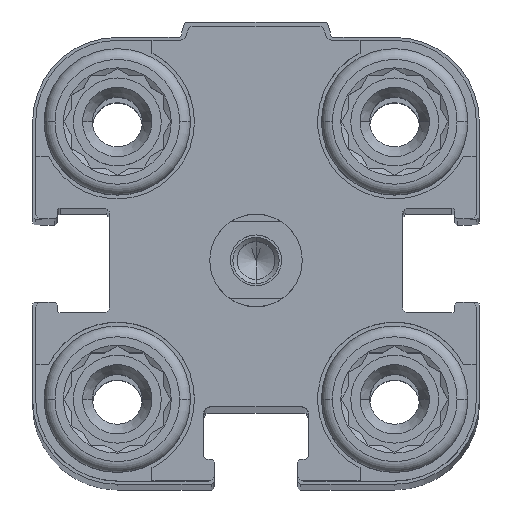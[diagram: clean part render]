
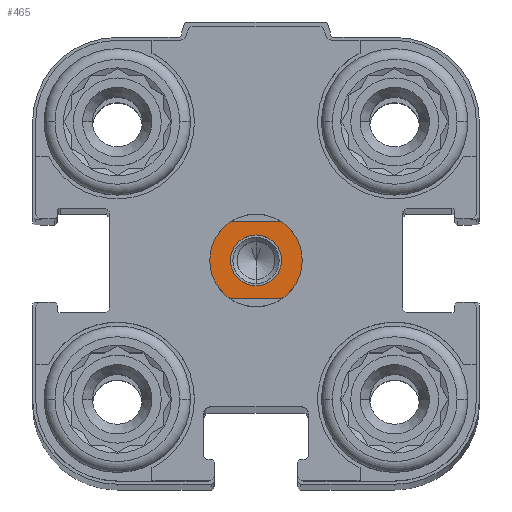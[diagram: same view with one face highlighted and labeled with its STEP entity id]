
A CAD part, top view. The second image highlights one B-rep face of the part: STEP entity #465.
In plain terms, the highlighted planar face has unit normal (0, 0, 1).
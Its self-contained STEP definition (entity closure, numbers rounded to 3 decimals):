
#465 = ADVANCED_FACE ( 'NONE', ( #7589, #7510 ), #5895, .F. ) ;
#646 = CARTESIAN_POINT ( 'NONE',  ( 1.658, 2.5, 4.5 ) ) ;
#752 = CIRCLE ( 'NONE', #5339, 3. ) ;
#886 = VERTEX_POINT ( 'NONE', #3805 ) ;
#1290 = CARTESIAN_POINT ( 'NONE',  ( 0., 0., 4.5 ) ) ;
#1443 = CIRCLE ( 'NONE', #9461, 3. ) ;
#1670 = AXIS2_PLACEMENT_3D ( 'NONE', #15509, #14074, #6065 ) ;
#1988 = ORIENTED_EDGE ( 'NONE', *, *, #15086, .F. ) ;
#2314 = EDGE_CURVE ( 'NONE', #3663, #9179, #8144, .T. ) ;
#2729 = DIRECTION ( 'NONE',  ( 0., 1., 0. ) ) ;
#2858 = VERTEX_POINT ( 'NONE', #15460 ) ;
#3494 = DIRECTION ( 'NONE',  ( 0., 0., -1. ) ) ;
#3663 = VERTEX_POINT ( 'NONE', #13912 ) ;
#3795 = ORIENTED_EDGE ( 'NONE', *, *, #17385, .F. ) ;
#3805 = CARTESIAN_POINT ( 'NONE',  ( -3., 0., 4.5 ) ) ;
#4155 = EDGE_LOOP ( 'NONE', ( #14981, #17383 ) ) ;
#4984 = DIRECTION ( 'NONE',  ( -1., 0., 0. ) ) ;
#5274 = DIRECTION ( 'NONE',  ( -1., 0., 0. ) ) ;
#5339 = AXIS2_PLACEMENT_3D ( 'NONE', #14627, #8163, #5274 ) ;
#5676 = DIRECTION ( 'NONE',  ( -1., 0., 0. ) ) ;
#5895 = PLANE ( 'NONE',  #13712 ) ;
#6065 = DIRECTION ( 'NONE',  ( -1., 0., 0. ) ) ;
#6239 = VECTOR ( 'NONE', #14199, 1000. ) ;
#6475 = AXIS2_PLACEMENT_3D ( 'NONE', #14971, #10726, #4984 ) ;
#6750 = CIRCLE ( 'NONE', #16796, 1.65 ) ;
#7008 = CARTESIAN_POINT ( 'NONE',  ( 5., -2.5, 4.5 ) ) ;
#7429 = DIRECTION ( 'NONE',  ( 0., 1., 0. ) ) ;
#7458 = ORIENTED_EDGE ( 'NONE', *, *, #15832, .F. ) ;
#7510 = FACE_BOUND ( 'NONE', #4155, .T. ) ;
#7564 = CARTESIAN_POINT ( 'NONE',  ( -1.658, -2.5, 4.5 ) ) ;
#7589 = FACE_OUTER_BOUND ( 'NONE', #10048, .T. ) ;
#7928 = VERTEX_POINT ( 'NONE', #15657 ) ;
#8144 = CIRCLE ( 'NONE', #16153, 1.65 ) ;
#8163 = DIRECTION ( 'NONE',  ( 0., 0., -1. ) ) ;
#8830 = EDGE_CURVE ( 'NONE', #15793, #7928, #1443, .T. ) ;
#9130 = VECTOR ( 'NONE', #5676, 1000. ) ;
#9179 = VERTEX_POINT ( 'NONE', #16188 ) ;
#9461 = AXIS2_PLACEMENT_3D ( 'NONE', #12076, #10632, #13437 ) ;
#10048 = EDGE_LOOP ( 'NONE', ( #7458, #14813, #12173, #3795, #1988, #10424 ) ) ;
#10144 = CARTESIAN_POINT ( 'NONE',  ( 0., 0., 4.5 ) ) ;
#10424 = ORIENTED_EDGE ( 'NONE', *, *, #8830, .F. ) ;
#10632 = DIRECTION ( 'NONE',  ( 0., 0., -1. ) ) ;
#10726 = DIRECTION ( 'NONE',  ( 0., 0., -1. ) ) ;
#10906 = DIRECTION ( 'NONE',  ( 0., 0., -1. ) ) ;
#11421 = CARTESIAN_POINT ( 'NONE',  ( -5., 2.5, 4.5 ) ) ;
#11668 = EDGE_CURVE ( 'NONE', #886, #12722, #11929, .T. ) ;
#11683 = LINE ( 'NONE', #11421, #6239 ) ;
#11833 = DIRECTION ( 'NONE',  ( 0., 1., 0. ) ) ;
#11929 = CIRCLE ( 'NONE', #6475, 3. ) ;
#12076 = CARTESIAN_POINT ( 'NONE',  ( 0., 0., 4.5 ) ) ;
#12173 = ORIENTED_EDGE ( 'NONE', *, *, #16697, .F. ) ;
#12337 = EDGE_CURVE ( 'NONE', #9179, #3663, #6750, .T. ) ;
#12722 = VERTEX_POINT ( 'NONE', #14511 ) ;
#13422 = CIRCLE ( 'NONE', #1670, 3. ) ;
#13437 = DIRECTION ( 'NONE',  ( -1., 0., 0. ) ) ;
#13712 = AXIS2_PLACEMENT_3D ( 'NONE', #15514, #14254, #7429 ) ;
#13912 = CARTESIAN_POINT ( 'NONE',  ( 0., 1.65, 4.5 ) ) ;
#14074 = DIRECTION ( 'NONE',  ( 0., 0., -1. ) ) ;
#14199 = DIRECTION ( 'NONE',  ( 1., 0., 0. ) ) ;
#14254 = DIRECTION ( 'NONE',  ( 0., 0., -1. ) ) ;
#14511 = CARTESIAN_POINT ( 'NONE',  ( -1.658, 2.5, 4.5 ) ) ;
#14627 = CARTESIAN_POINT ( 'NONE',  ( 0., 0., 4.5 ) ) ;
#14813 = ORIENTED_EDGE ( 'NONE', *, *, #11668, .F. ) ;
#14971 = CARTESIAN_POINT ( 'NONE',  ( 0., 0., 4.5 ) ) ;
#14981 = ORIENTED_EDGE ( 'NONE', *, *, #2314, .T. ) ;
#15086 = EDGE_CURVE ( 'NONE', #7928, #2858, #752, .T. ) ;
#15407 = VERTEX_POINT ( 'NONE', #7564 ) ;
#15460 = CARTESIAN_POINT ( 'NONE',  ( 1.658, -2.5, 4.5 ) ) ;
#15509 = CARTESIAN_POINT ( 'NONE',  ( 0., 0., 4.5 ) ) ;
#15514 = CARTESIAN_POINT ( 'NONE',  ( 0., 0., 4.5 ) ) ;
#15657 = CARTESIAN_POINT ( 'NONE',  ( 3., 0., 4.5 ) ) ;
#15793 = VERTEX_POINT ( 'NONE', #646 ) ;
#15832 = EDGE_CURVE ( 'NONE', #12722, #15793, #11683, .T. ) ;
#16153 = AXIS2_PLACEMENT_3D ( 'NONE', #1290, #10906, #2729 ) ;
#16188 = CARTESIAN_POINT ( 'NONE',  ( 0., -1.65, 4.5 ) ) ;
#16697 = EDGE_CURVE ( 'NONE', #15407, #886, #13422, .T. ) ;
#16796 = AXIS2_PLACEMENT_3D ( 'NONE', #10144, #3494, #11833 ) ;
#17383 = ORIENTED_EDGE ( 'NONE', *, *, #12337, .T. ) ;
#17385 = EDGE_CURVE ( 'NONE', #2858, #15407, #17698, .T. ) ;
#17698 = LINE ( 'NONE', #7008, #9130 ) ;
